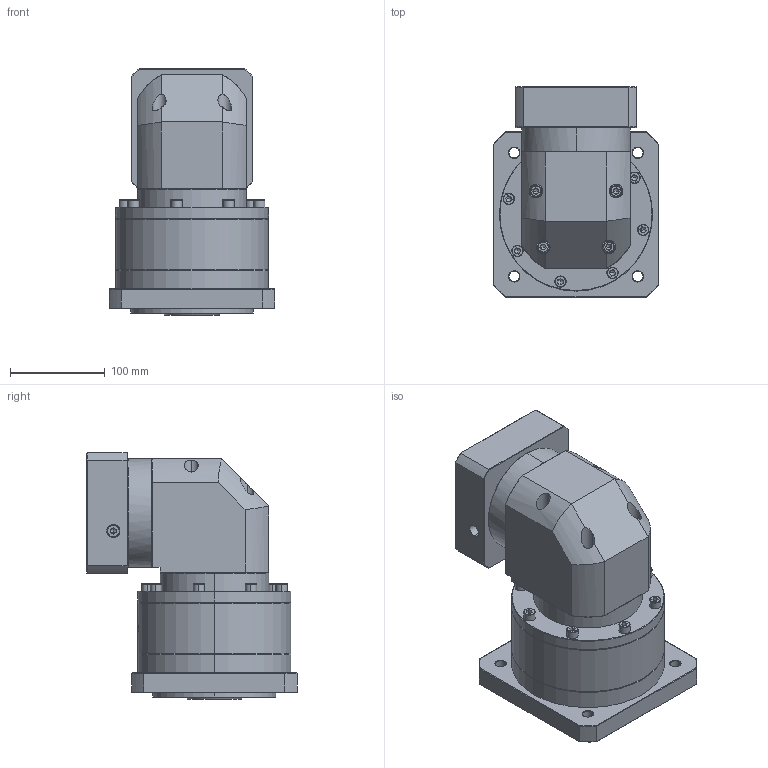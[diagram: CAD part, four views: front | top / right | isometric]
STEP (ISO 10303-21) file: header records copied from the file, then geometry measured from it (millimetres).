
FILE_DESCRIPTION (( 'STEP AP214' ), '1' );
FILE_NAME ('ZFR160A-K35-L2-P2-19-110-145-M8.step', '2023-09-03T09:43:10', ( '' ), ( '' ), 'SwSTEP 2.0', 'SolidWorks 2016', '' );
FILE_SCHEMA (( 'AUTOMOTIVE_DESIGN' ));
Length unit declared in the file: millimetre
Products named in the file (1): ZFR160A-K35-L2-P2-19-110-145-M8
Bounding box: 175 x 222.4 x 261.2 mm (x, y, z)
Volume: 4745258.6 mm3; surface area: 340583.7 mm2
Topology: 6 solids, 6 shells, 2413 faces, 6318 edges, 4031 vertices
Faces by surface type: plane 1139, cylinder 462, bspline 404, cone 364, torus 44
Entity records: 126457 total; most frequent: CARTESIAN_POINT 45663, ORIENTED_EDGE 12532, DIRECTION 9556, EDGE_CURVE 6266, VERTEX_POINT 4031, LINE 3380, VECTOR 3380, AXIS2_PLACEMENT_3D 3088
